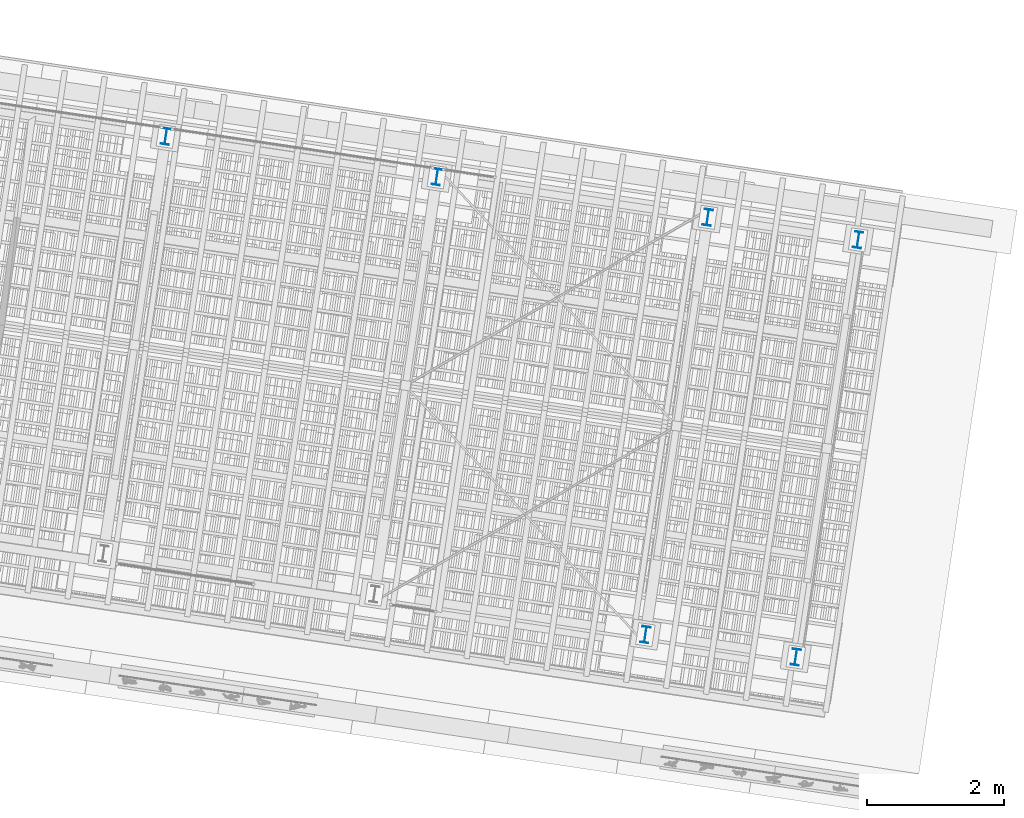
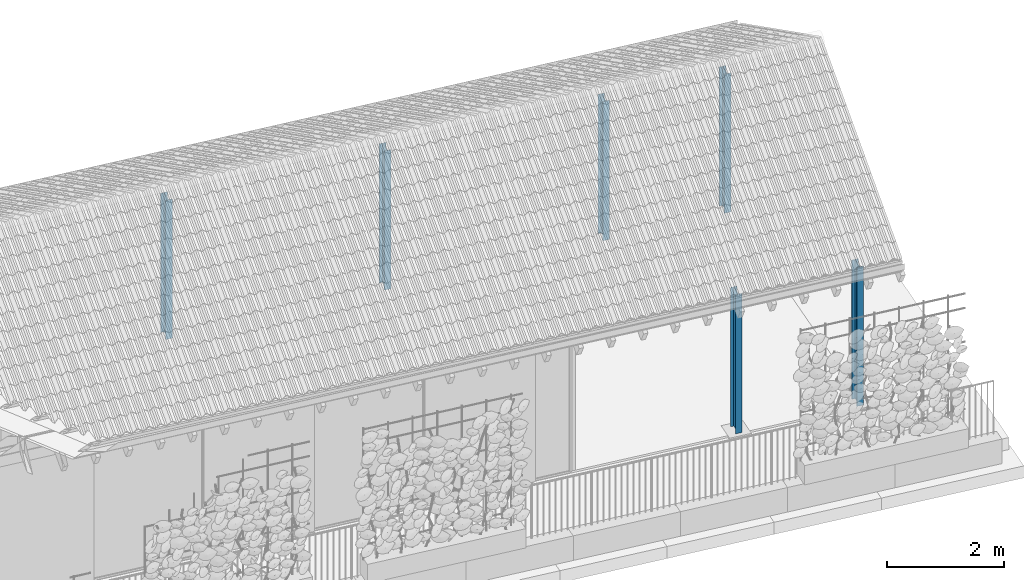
# One storey, part 4 of 128: 6 columns.
"""IFC4 building model written with IfcOpenShell, lengths in metres."""

from ifc_helpers import new_model, si_unit, direction, frame, origin_with_axes, place, context, subcontext, project, spatial, i_section, extrude, material, material_profile, profile_set, profile_usage, type_object, element, save


model = new_model("IFC4")

# Units and contexts
model_context = context("Model", 3, precision=1e-05, world=origin_with_axes(), true_north=direction((0.0, 1.0)))
body_context = subcontext(model_context, "Body", "Model", "MODEL_VIEW")
ifc_project = project(units=[si_unit("VOLUMEUNIT", "CUBIC_METRE"), si_unit("LENGTHUNIT", "METRE"), si_unit("AREAUNIT", "SQUARE_METRE")], contexts=[model_context])

# Site, building, storey
site_placement = place(None, origin_with_axes())
site = spatial("IfcSite", under=ifc_project, at=site_placement, Name="Lares · Rua das Mercês · artigo 4771")
building_placement = place(site_placement, frame((15.0, 9.7, 13.9), z_axis=(0.0, 0.0, 1.0), x_axis=(0.989015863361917, -0.147809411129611, 0.0)))
building = spatial("IfcBuilding", under=site, at=building_placement, Name="Casa Sobreposta")
storey_placement = place(building_placement, origin_with_axes())
storey = spatial("IfcBuildingStorey", under=building, at=storey_placement, Name="00 · Habitação e estacionamento", Elevation=13.9)

# Columns
ifc_material = material(Name="Aço pintado / Stahl lackiert", Category="steel")
ifc_material_profile = material_profile(ifc_material, i_section(OverallWidth=0.12, OverallDepth=0.24, WebThickness=0.0062, FlangeThickness=0.0098))
ifc_profile_set = profile_set([ifc_material_profile], Name="IPE240")
ifc_profile_usage_1 = profile_usage(ifc_profile_set)
column_type = type_object("IfcColumnType", Name="IPE240 / steel", PredefinedType="NOTDEFINED", material=ifc_profile_set)
column_1_placement = place(storey_placement, frame((20.0, 6.28, 0.0), z_axis=(0.0, 0.0, 1.0), x_axis=(1.0, 0.0, 0.0)))
element("IfcColumn", 1, at=column_1_placement, inside=storey, type_object=column_type, material=ifc_profile_usage_1, Name="Casa térrea · pilar metálico de referência", context=body_context, shape_type="SweptSolid", body=[
    extrude(i_section(OverallWidth=0.12, OverallDepth=0.24, WebThickness=0.0062, FlangeThickness=0.0098), origin_with_axes(), (0.0, 0.0, 1.0), 2.89),
])
ifc_profile_usage_2 = profile_usage(ifc_profile_set)
column_2_placement = place(storey_placement, frame((24.0, 6.28, 0.0), z_axis=(0.0, 0.0, 1.0), x_axis=(1.0, 0.0, 0.0)))
element("IfcColumn", 2, at=column_2_placement, inside=storey, type_object=column_type, material=ifc_profile_usage_2, Name="Casa térrea · pilar metálico de referência", context=body_context, shape_type="SweptSolid", body=[
    extrude(i_section(OverallWidth=0.12, OverallDepth=0.24, WebThickness=0.0062, FlangeThickness=0.0098), origin_with_axes(), (0.0, 0.0, 1.0), 2.89),
])
ifc_profile_usage_3 = profile_usage(ifc_profile_set)
column_3_placement = place(storey_placement, frame((28.0, 0.12, 0.0), z_axis=(0.0, 0.0, 1.0), x_axis=(1.0, 0.0, 0.0)))
element("IfcColumn", 3, at=column_3_placement, inside=storey, type_object=column_type, material=ifc_profile_usage_3, Name="Casa térrea · pilar metálico de referência", context=body_context, shape_type="SweptSolid", body=[
    extrude(i_section(OverallWidth=0.12, OverallDepth=0.24, WebThickness=0.0062, FlangeThickness=0.0098), origin_with_axes(), (0.0, 0.0, 1.0), 2.89),
])
ifc_profile_usage_4 = profile_usage(ifc_profile_set)
column_4_placement = place(storey_placement, frame((28.0, 6.28, 0.0), z_axis=(0.0, 0.0, 1.0), x_axis=(1.0, 0.0, 0.0)))
element("IfcColumn", 4, at=column_4_placement, inside=storey, type_object=column_type, material=ifc_profile_usage_4, Name="Casa térrea · pilar metálico de referência", context=body_context, shape_type="SweptSolid", body=[
    extrude(i_section(OverallWidth=0.12, OverallDepth=0.24, WebThickness=0.0062, FlangeThickness=0.0098), origin_with_axes(), (0.0, 0.0, 1.0), 2.89),
])
ifc_profile_usage_5 = profile_usage(ifc_profile_set)
column_5_placement = place(storey_placement, frame((30.22, 0.12, 0.0), z_axis=(0.0, 0.0, 1.0), x_axis=(1.0, 0.0, 0.0)))
element("IfcColumn", 5, at=column_5_placement, inside=storey, type_object=column_type, material=ifc_profile_usage_5, Name="Casa térrea · pilar metálico de referência", context=body_context, shape_type="SweptSolid", body=[
    extrude(i_section(OverallWidth=0.12, OverallDepth=0.24, WebThickness=0.0062, FlangeThickness=0.0098), origin_with_axes(), (0.0, 0.0, 1.0), 2.89),
])
ifc_profile_usage_6 = profile_usage(ifc_profile_set)
column_6_placement = place(storey_placement, frame((30.22, 6.28, 0.0), z_axis=(0.0, 0.0, 1.0), x_axis=(1.0, 0.0, 0.0)))
element("IfcColumn", 6, at=column_6_placement, inside=storey, type_object=column_type, material=ifc_profile_usage_6, Name="Casa térrea · pilar metálico de referência", context=body_context, shape_type="SweptSolid", body=[
    extrude(i_section(OverallWidth=0.12, OverallDepth=0.24, WebThickness=0.0062, FlangeThickness=0.0098), origin_with_axes(), (0.0, 0.0, 1.0), 2.89),
])

save(model, "model.ifc")
